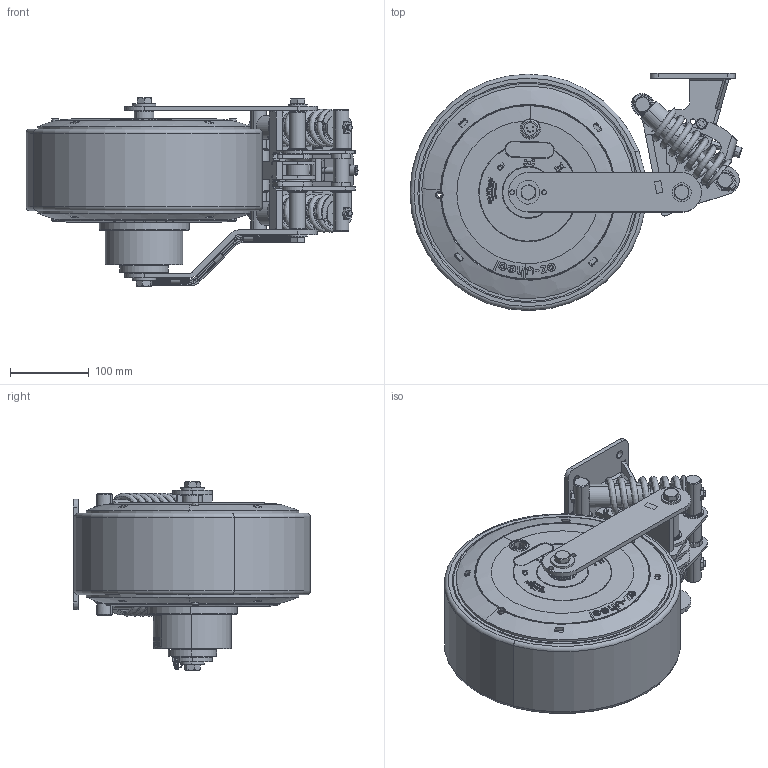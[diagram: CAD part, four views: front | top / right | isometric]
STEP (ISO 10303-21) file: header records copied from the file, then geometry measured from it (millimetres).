
FILE_DESCRIPTION (( 'STEP AP214' ), '1' );
FILE_NAME ('A_201040.STEP', '2013-09-23T16:36:40', ( 'ED' ), ( 'Microsoft' ), 'SwSTEP 2.0', 'SolidWorks 2013', '' );
FILE_SCHEMA (( 'AUTOMOTIVE_DESIGN' ));
Length unit declared in the file: millimetre
Products named in the file (1): A_201040
Bounding box: 421.46 x 300.99 x 239 mm (x, y, z)
Surface area: 707502.5 mm2 (no closed solid volume)
Topology: 0 solids, 182 shells, 1292 faces, 6444 edges, 5259 vertices
Faces by surface type: cylinder 464, plane 459, bspline 155, torus 110, cone 102, sphere 2
Entity records: 106666 total; most frequent: CARTESIAN_POINT 44432, DIRECTION 9002, ORIENTED_EDGE 8778, EDGE_CURVE 6444, VERTEX_POINT 5259, VECTOR 3052, LINE 3052, AXIS2_PLACEMENT_3D 2975
